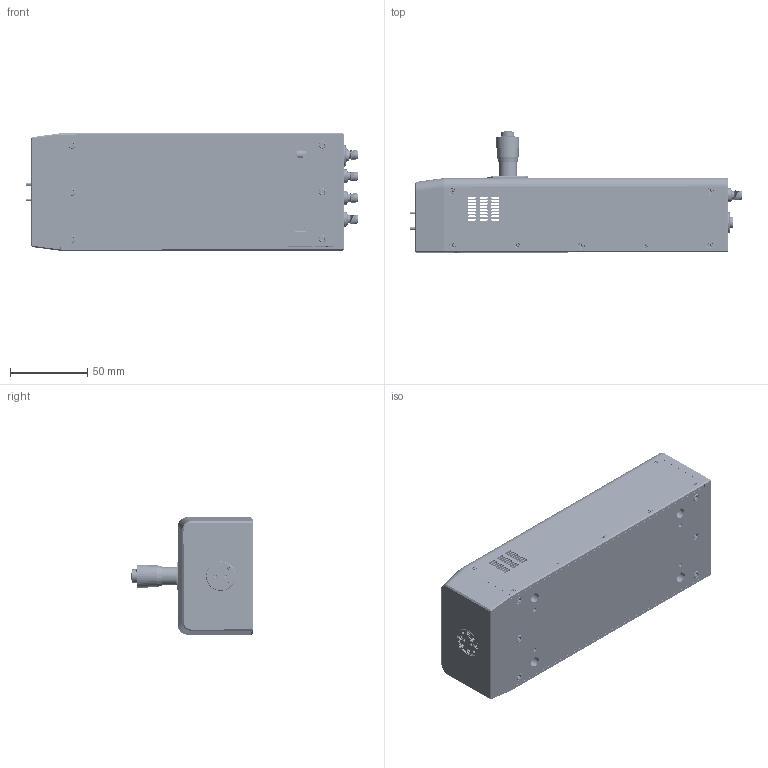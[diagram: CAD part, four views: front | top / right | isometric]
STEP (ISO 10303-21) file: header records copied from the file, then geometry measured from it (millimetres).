
FILE_DESCRIPTION (( 'STEP AP214' ), '1' );
FILE_NAME ('TO-S03-A-M-4, DF, Mountable.STEP', '2025-09-03T18:16:30', ( '' ), ( '' ), 'SwSTEP 2.0', 'SolidWorks 2021', '' );
FILE_SCHEMA (( 'AUTOMOTIVE_DESIGN' ));
Length unit declared in the file: inch
Products named in the file (1): TO-S03-A-M-4, DF, Mountable
Bounding box: 215.5 x 78.77 x 76.35 mm (x, y, z)
Volume: 234636.3 mm3; surface area: 155180.8 mm2
Topology: 93 solids, 99 shells, 5541 faces, 14549 edges, 9258 vertices
Faces by surface type: cylinder 2604, plane 1530, cone 899, bspline 467, sphere 25, torus 16
Entity records: 373320 total; most frequent: CARTESIAN_POINT 177456, ORIENTED_EDGE 28780, DIRECTION 22235, EDGE_CURVE 14390, VERTEX_POINT 9252, AXIS2_PLACEMENT_3D 8261, EDGE_LOOP 6074, VECTOR 5713
